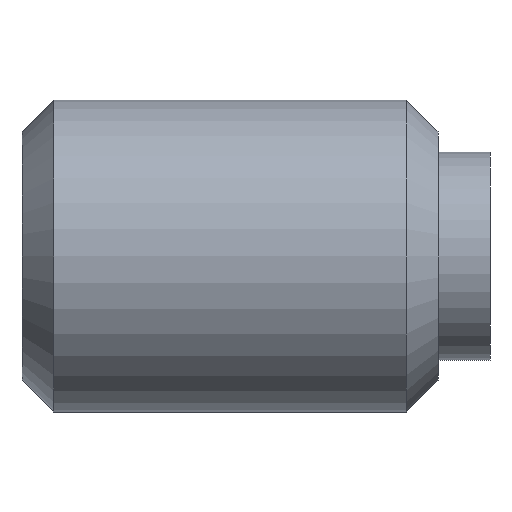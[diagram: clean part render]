
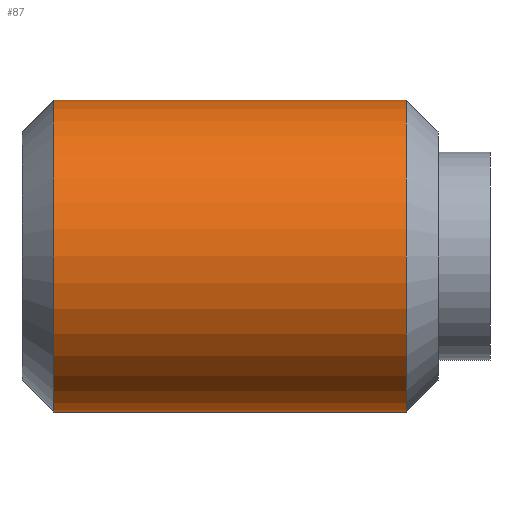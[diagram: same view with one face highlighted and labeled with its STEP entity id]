
A CAD part, left-side view. The second image highlights one B-rep face of the part: STEP entity #87.
In plain terms, the highlighted cylindrical face has radius 3 mm (diameter 6 mm), a full revolution.
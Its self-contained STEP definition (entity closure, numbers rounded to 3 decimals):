
#87 = ADVANCED_FACE( '', ( #118, #119 ), #120, .T. );
#118 = FACE_OUTER_BOUND( '', #152, .T. );
#119 = FACE_OUTER_BOUND( '', #153, .T. );
#120 = CYLINDRICAL_SURFACE( '', #154, 3. );
#152 = EDGE_LOOP( '', ( #238 ) );
#153 = EDGE_LOOP( '', ( #239 ) );
#154 = AXIS2_PLACEMENT_3D( '', #240, #241, #242 );
#238 = ORIENTED_EDGE( '', *, *, #270, .F. );
#239 = ORIENTED_EDGE( '', *, *, #271, .T. );
#240 = CARTESIAN_POINT( '', ( 0., 0., 0. ) );
#241 = DIRECTION( '', ( 0., 1., 0. ) );
#242 = DIRECTION( '', ( 0., 0., -1. ) );
#270 = EDGE_CURVE( '', #310, #310, #311, .T. );
#271 = EDGE_CURVE( '', #312, #312, #313, .T. );
#310 = VERTEX_POINT( '', #370 );
#311 = CIRCLE( '', #371, 3. );
#312 = VERTEX_POINT( '', #372 );
#313 = CIRCLE( '', #373, 3. );
#370 = CARTESIAN_POINT( '', ( 0., 1.614, -3. ) );
#371 = AXIS2_PLACEMENT_3D( '', #404, #405, #406 );
#372 = CARTESIAN_POINT( '', ( 0., 8.387, -3. ) );
#373 = AXIS2_PLACEMENT_3D( '', #407, #408, #409 );
#404 = CARTESIAN_POINT( '', ( 0., 1.614, 0. ) );
#405 = DIRECTION( '', ( 0., -1., 0. ) );
#406 = DIRECTION( '', ( 0., 0., -1. ) );
#407 = CARTESIAN_POINT( '', ( 0., 8.387, 0. ) );
#408 = DIRECTION( '', ( 0., -1., 0. ) );
#409 = DIRECTION( '', ( 0., 0., -1. ) );
